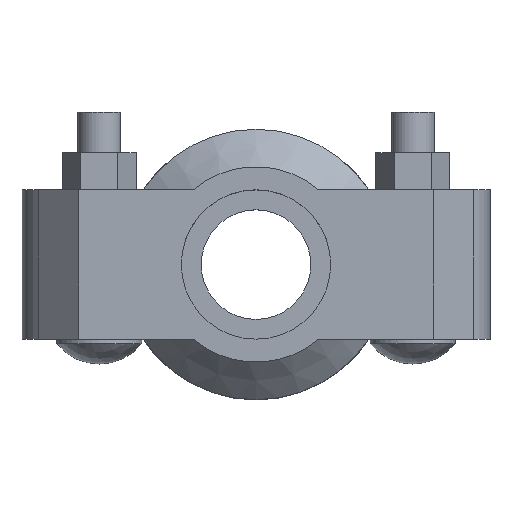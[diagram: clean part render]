
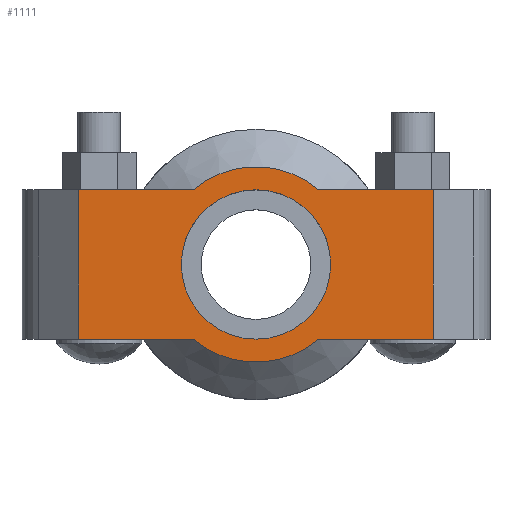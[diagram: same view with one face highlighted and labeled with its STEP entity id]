
A CAD part, top view. The second image highlights one B-rep face of the part: STEP entity #1111.
In plain terms, the highlighted planar face has unit normal (0, 0, 1).
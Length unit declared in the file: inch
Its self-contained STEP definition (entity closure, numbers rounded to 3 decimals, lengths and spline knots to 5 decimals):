
#75=FACE_BOUND('',#226,.T.);
#105=PLANE('',#1226);
#153=FACE_OUTER_BOUND('',#225,.T.);
#225=EDGE_LOOP('',(#888,#889,#890,#891,#892,#893,#894,#895));
#226=EDGE_LOOP('',(#896));
#298=LINE('',#1752,#385);
#313=LINE('',#1811,#400);
#321=LINE('',#1841,#408);
#323=LINE('',#1844,#410);
#324=LINE('',#1849,#411);
#325=LINE('',#1850,#412);
#385=VECTOR('',#1433,0.3937);
#400=VECTOR('',#1468,0.3937);
#408=VECTOR('',#1488,0.3937);
#410=VECTOR('',#1492,0.3937);
#411=VECTOR('',#1497,0.3937);
#412=VECTOR('',#1498,0.3937);
#437=CIRCLE('',#1183,0.6575);
#453=CIRCLE('',#1227,0.86);
#454=CIRCLE('',#1228,0.86);
#480=VERTEX_POINT('',#1644);
#515=VERTEX_POINT('',#1749);
#516=VERTEX_POINT('',#1751);
#537=VERTEX_POINT('',#1806);
#538=VERTEX_POINT('',#1810);
#547=VERTEX_POINT('',#1836);
#548=VERTEX_POINT('',#1840);
#549=VERTEX_POINT('',#1846);
#550=VERTEX_POINT('',#1848);
#581=EDGE_CURVE('',#480,#480,#437,.T.);
#632=EDGE_CURVE('',#516,#515,#298,.T.);
#657=EDGE_CURVE('',#538,#537,#313,.T.);
#670=EDGE_CURVE('',#548,#547,#321,.T.);
#672=EDGE_CURVE('',#548,#515,#323,.T.);
#673=EDGE_CURVE('',#547,#549,#453,.T.);
#674=EDGE_CURVE('',#549,#550,#324,.T.);
#675=EDGE_CURVE('',#538,#550,#325,.T.);
#676=EDGE_CURVE('',#537,#516,#454,.T.);
#888=ORIENTED_EDGE('',*,*,#672,.F.);
#889=ORIENTED_EDGE('',*,*,#670,.T.);
#890=ORIENTED_EDGE('',*,*,#673,.T.);
#891=ORIENTED_EDGE('',*,*,#674,.T.);
#892=ORIENTED_EDGE('',*,*,#675,.F.);
#893=ORIENTED_EDGE('',*,*,#657,.T.);
#894=ORIENTED_EDGE('',*,*,#676,.T.);
#895=ORIENTED_EDGE('',*,*,#632,.T.);
#896=ORIENTED_EDGE('',*,*,#581,.T.);
#1111=ADVANCED_FACE('',(#153,#75),#105,.T.);
#1183=AXIS2_PLACEMENT_3D('',#1646,#1337,#1338);
#1226=AXIS2_PLACEMENT_3D('',#1845,#1493,#1494);
#1227=AXIS2_PLACEMENT_3D('',#1847,#1495,#1496);
#1228=AXIS2_PLACEMENT_3D('',#1851,#1499,#1500);
#1337=DIRECTION('center_axis',(0.,0.,-1.));
#1338=DIRECTION('ref_axis',(1.,0.,0.));
#1433=DIRECTION('',(1.,0.,0.));
#1468=DIRECTION('',(1.,0.,0.));
#1488=DIRECTION('',(-1.,0.,0.));
#1492=DIRECTION('',(0.,-1.,0.));
#1493=DIRECTION('center_axis',(0.,0.,1.));
#1494=DIRECTION('ref_axis',(-1.,0.,0.));
#1495=DIRECTION('center_axis',(0.,0.,1.));
#1496=DIRECTION('ref_axis',(1.,0.,0.));
#1497=DIRECTION('',(-1.,0.,0.));
#1498=DIRECTION('',(0.,1.,0.));
#1499=DIRECTION('center_axis',(0.,0.,1.));
#1500=DIRECTION('ref_axis',(1.,0.,0.));
#1644=CARTESIAN_POINT('',(-0.6575,0.,0.875));
#1646=CARTESIAN_POINT('Origin',(0.,0.,0.875));
#1749=CARTESIAN_POINT('',(1.56,-0.6575,0.875));
#1751=CARTESIAN_POINT('',(0.55434,-0.6575,0.875));
#1752=CARTESIAN_POINT('',(-2.06,-0.6575,0.875));
#1806=CARTESIAN_POINT('',(-0.55434,-0.6575,0.875));
#1810=CARTESIAN_POINT('',(-1.56,-0.6575,0.875));
#1811=CARTESIAN_POINT('',(-2.06,-0.6575,0.875));
#1836=CARTESIAN_POINT('',(0.55434,0.6575,0.875));
#1840=CARTESIAN_POINT('',(1.56,0.6575,0.875));
#1841=CARTESIAN_POINT('',(2.06,0.6575,0.875));
#1844=CARTESIAN_POINT('',(1.56,-0.32875,0.875));
#1845=CARTESIAN_POINT('Origin',(0.,0.,
0.875));
#1846=CARTESIAN_POINT('',(-0.55434,0.6575,0.875));
#1847=CARTESIAN_POINT('Origin',(0.,0.,0.875));
#1848=CARTESIAN_POINT('',(-1.56,0.6575,0.875));
#1849=CARTESIAN_POINT('',(2.06,0.6575,0.875));
#1850=CARTESIAN_POINT('',(-1.56,0.32875,0.875));
#1851=CARTESIAN_POINT('Origin',(0.,0.,0.875));
